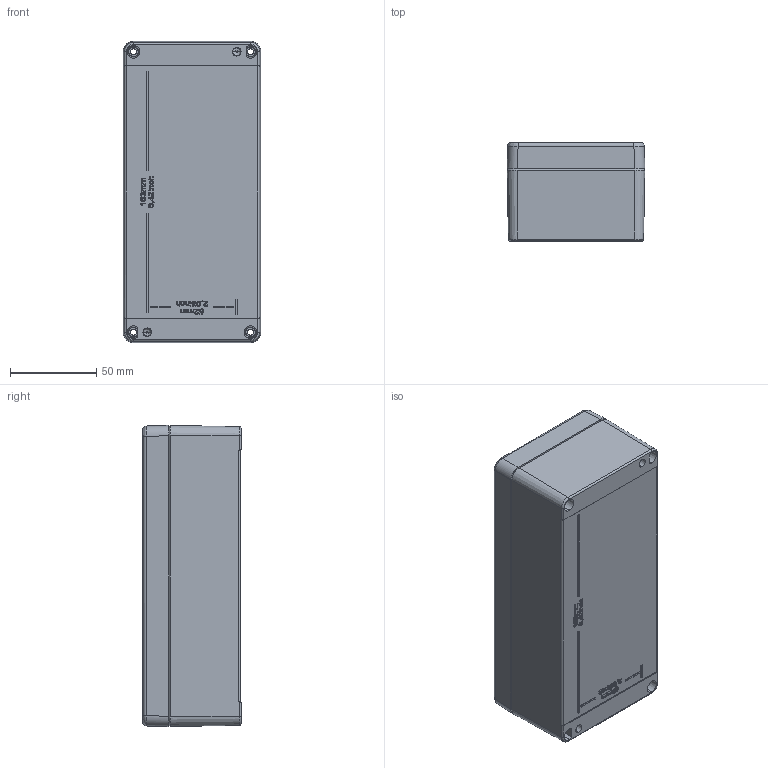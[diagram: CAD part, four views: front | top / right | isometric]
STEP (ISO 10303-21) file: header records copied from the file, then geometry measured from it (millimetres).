
FILE_DESCRIPTION (( 'STEP AP203' ), '1' );
FILE_NAME ('175x80x57 CLOSE.STEP', '2023-06-06T12:30:40', ( '' ), ( '' ), 'SwSTEP 2.0', 'SolidWorks 2017', '' );
FILE_SCHEMA (( 'CONFIG_CONTROL_DESIGN' ));
Length unit declared in the file: millimetre
Products named in the file (3): BASE_175_80_57; 175x80x57  CLOSE; LID_175_80_57
Assembly tree (2 placements, depth 2):
  175x80x57  CLOSE
    BASE_175_80_57
    LID_175_80_57
Bounding box: 80 x 57 x 175 mm (x, y, z)
Volume: 199536.2 mm3; surface area: 115276.5 mm2
Topology: 2 solids, 2 shells, 973 faces, 2503 edges, 1606 vertices
Faces by surface type: plane 440, bspline 199, cone 168, cylinder 104, torus 62
Entity records: 44716 total; most frequent: CARTESIAN_POINT 22791, ORIENTED_EDGE 4998, DIRECTION 3544, EDGE_CURVE 2499, VERTEX_POINT 1606, LINE 1354, VECTOR 1354, AXIS2_PLACEMENT_3D 1095
